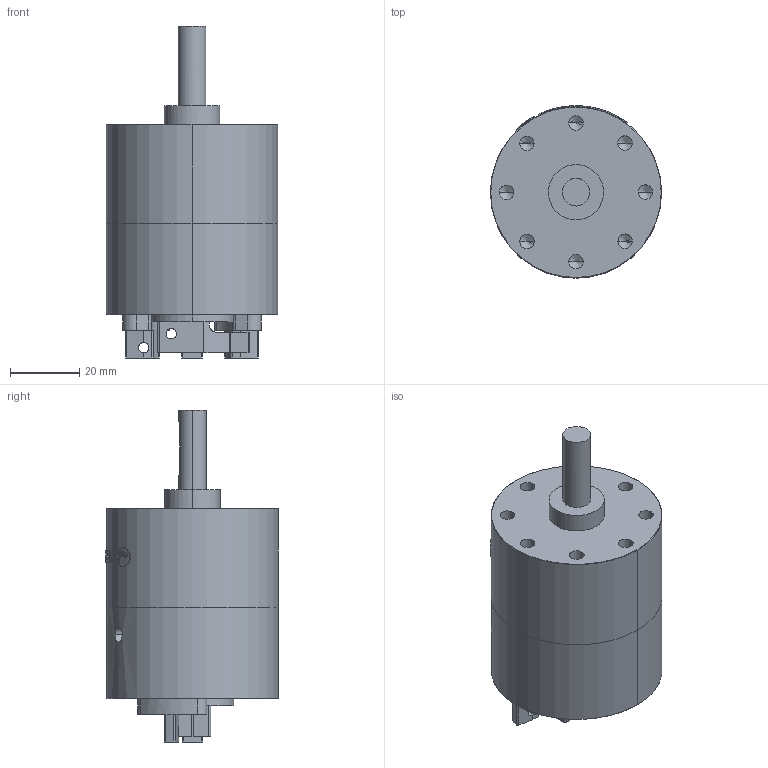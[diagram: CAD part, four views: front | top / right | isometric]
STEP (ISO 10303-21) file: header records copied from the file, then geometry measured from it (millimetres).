
FILE_DESCRIPTION (( 'STEP AP203' ), '1' );
FILE_NAME ('PROA20S-#-#.STEP', '2016-02-04T07:03:36', ( 'Sam Lin' ), ( '' ), 'SwSTEP 2.0', 'SolidWorks 2013', '' );
FILE_SCHEMA (( 'CONFIG_CONTROL_DESIGN' ));
Length unit declared in the file: metre
Products named in the file (8): PROA20S-#-# (6); mark-PROA20S; 鏡射PROA20S-#-# (4); PROA20S-#-#; PROA20S-#-# (2); PROA20S-#-# (3); PROA20S-#-# (1); PROA20S-#-# (4)
Assembly tree (7 placements, depth 2):
  PROA20S-#-#
    PROA20S-#-# (2)
    PROA20S-#-# (3)
    PROA20S-#-# (1)
    PROA20S-#-# (4)
    PROA20S-#-# (6)
    mark-PROA20S
    鏡射PROA20S-#-# (4)
Bounding box: 49.5 x 49.78 x 96 mm (x, y, z)
Volume: 109431.9 mm3; surface area: 26919.2 mm2
Topology: 13 solids, 13 shells, 361 faces, 903 edges, 587 vertices
Faces by surface type: cylinder 166, plane 136, bspline 35, cone 24
Entity records: 15941 total; most frequent: CARTESIAN_POINT 6627, ORIENTED_EDGE 1766, DIRECTION 1712, EDGE_CURVE 883, AXIS2_PLACEMENT_3D 648, VERTEX_POINT 587, EDGE_LOOP 430, LINE 416
